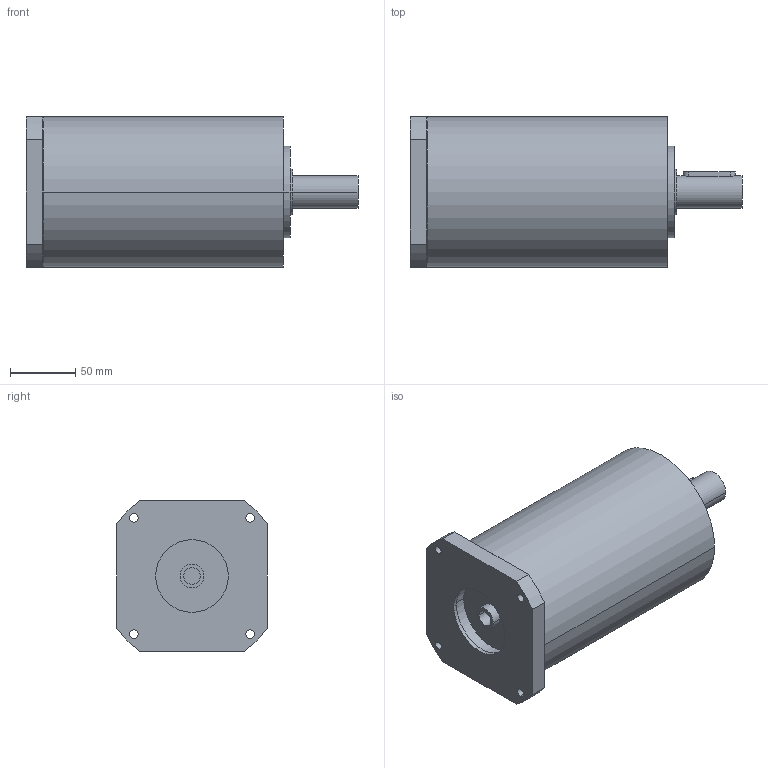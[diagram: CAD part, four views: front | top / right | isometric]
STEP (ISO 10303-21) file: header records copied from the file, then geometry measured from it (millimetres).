
FILE_DESCRIPTION(('CoCreate Modeling STEP Export'),'2;1');
FILE_NAME('GPR125_ig-48-64-80-100-140-196-245-343_25_B14_12.7_P01.stp','2014-08-26T14:20:20',(''),(''),'CoCreate Modeling STEP processor for AP214 (Solid Model)','CoCreate Modeling 16.00C 25-Feb-2009 (C) Parametric Technology GmbH','');
FILE_SCHEMA(('AUTOMOTIVE_DESIGN { 1 0 10303 214 1 1 1 1 }'));
Length unit declared in the file: millimetre
Products named in the file (2): GPR125_ig-48-64-80-100-140-196-245-343_25_B14_12.7_P01
Assembly tree (1 placements, depth 2):
  GPR125_ig-48-64-80-100-140-196-245-343_25_B14_12.7_P01
    GPR125_ig-48-64-80-100-140-196-245-343_25_B14_12.7_P01
Bounding box: 254 x 115 x 115 mm (x, y, z)
Volume: 2076997.5 mm3; surface area: 111542.9 mm2
Topology: 1 solids, 1 shells, 77 faces, 209 edges, 149 vertices
Faces by surface type: cylinder 48, plane 25, cone 4
Entity records: 2138 total; most frequent: ORIENTED_EDGE 414, CARTESIAN_POINT 396, DIRECTION 288, EDGE_CURVE 207, VERTEX_POINT 149, AXIS2_PLACEMENT_3D 109, EDGE_LOOP 102, FACE_OUTER_BOUND 77
